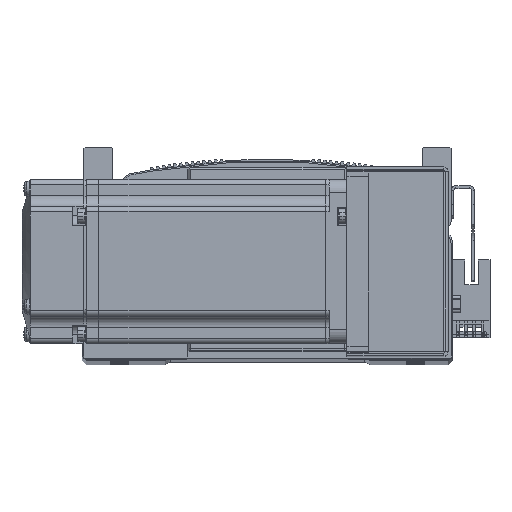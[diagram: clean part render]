
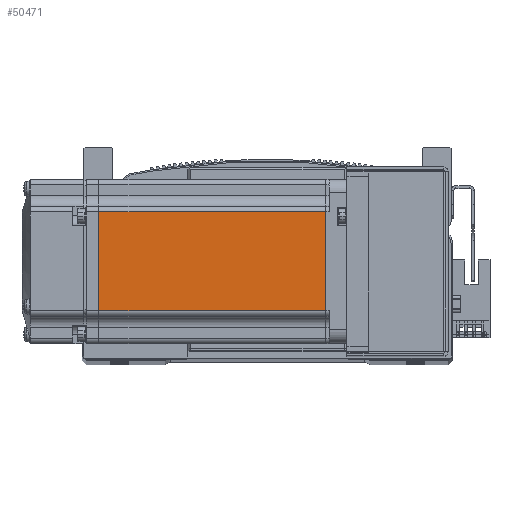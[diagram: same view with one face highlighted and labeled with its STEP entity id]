
A CAD part, top view. The second image highlights one B-rep face of the part: STEP entity #50471.
In plain terms, the highlighted planar face has unit normal (0, 0, 1) as drawn and (0, -1, 0) by its records, which use the part's own axes.
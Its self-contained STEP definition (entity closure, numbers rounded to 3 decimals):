
#694 = LINE ( 'NONE', #53571, #866 ) ;
#866 = VECTOR ( 'NONE', #53562, 1000. ) ;
#2340 = VECTOR ( 'NONE', #16949, 1000. ) ;
#2353 = LINE ( 'NONE', #16971, #2366 ) ;
#2355 = LINE ( 'NONE', #16974, #2340 ) ;
#2366 = VECTOR ( 'NONE', #16948, 1000. ) ;
#8670 = FACE_OUTER_BOUND ( 'NONE', #59494, .T. ) ;
#16948 = DIRECTION ( 'NONE',  ( -1., 0., 0. ) ) ;
#16949 = DIRECTION ( 'NONE',  ( 0., 0., -1. ) ) ;
#16971 = CARTESIAN_POINT ( 'NONE',  ( -6.5, -30., 18. ) ) ;
#16974 = CARTESIAN_POINT ( 'NONE',  ( -7.75, -30., 0. ) ) ;
#22761 = CARTESIAN_POINT ( 'NONE',  ( -90.45, -30., 18. ) ) ;
#22765 = CARTESIAN_POINT ( 'NONE',  ( -90.45, -30., -18. ) ) ;
#22780 = CARTESIAN_POINT ( 'NONE',  ( -7.75, -30., -18. ) ) ;
#22811 = CARTESIAN_POINT ( 'NONE',  ( -7.75, -30., 18. ) ) ;
#33062 = DIRECTION ( 'NONE',  ( 0., -1., 0. ) ) ;
#33065 = DIRECTION ( 'NONE',  ( 0., 0., -1. ) ) ;
#33079 = PLANE ( 'NONE',  #72768 ) ;
#33166 = CARTESIAN_POINT ( 'NONE',  ( -6.5, -30., -25. ) ) ;
#36328 = VECTOR ( 'NONE', #53635, 1000. ) ;
#36376 = LINE ( 'NONE', #53636, #36328 ) ;
#37255 = ORIENTED_EDGE ( 'NONE', *, *, #76047, .T. ) ;
#37272 = ORIENTED_EDGE ( 'NONE', *, *, #75940, .T. ) ;
#37323 = ORIENTED_EDGE ( 'NONE', *, *, #75942, .F. ) ;
#37411 = ORIENTED_EDGE ( 'NONE', *, *, #76013, .F. ) ;
#45435 = VERTEX_POINT ( 'NONE', #22761 ) ;
#45436 = VERTEX_POINT ( 'NONE', #22780 ) ;
#45453 = VERTEX_POINT ( 'NONE', #22765 ) ;
#45465 = VERTEX_POINT ( 'NONE', #22811 ) ;
#50471 = ADVANCED_FACE ( 'NONE', ( #8670 ), #33079, .T. ) ;
#53562 = DIRECTION ( 'NONE',  ( -1., 0., 0. ) ) ;
#53571 = CARTESIAN_POINT ( 'NONE',  ( -6.5, -30., -18. ) ) ;
#53635 = DIRECTION ( 'NONE',  ( 0., 0., -1. ) ) ;
#53636 = CARTESIAN_POINT ( 'NONE',  ( -90.45, -30., 0. ) ) ;
#59494 = EDGE_LOOP ( 'NONE', ( #37323, #37272, #37255, #37411 ) ) ;
#72768 = AXIS2_PLACEMENT_3D ( 'NONE', #33166, #33062, #33065 ) ;
#75940 = EDGE_CURVE ( 'NONE', #45465, #45435, #2353, .T. ) ;
#75942 = EDGE_CURVE ( 'NONE', #45465, #45436, #2355, .T. ) ;
#76013 = EDGE_CURVE ( 'NONE', #45436, #45453, #694, .T. ) ;
#76047 = EDGE_CURVE ( 'NONE', #45435, #45453, #36376, .T. ) ;
